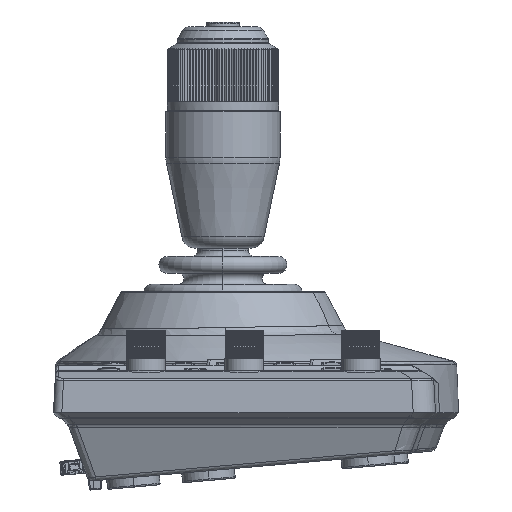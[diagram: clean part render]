
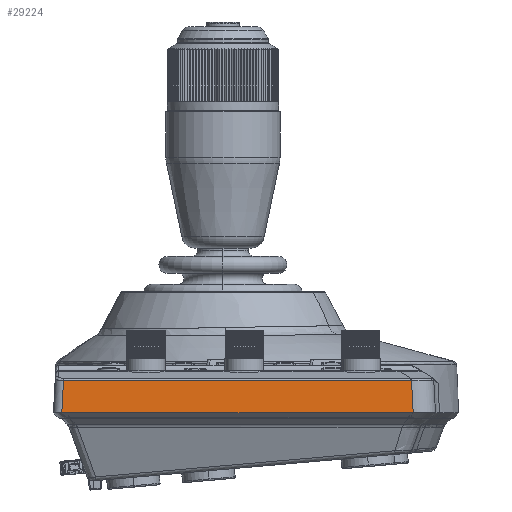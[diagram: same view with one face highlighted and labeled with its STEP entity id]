
A CAD part, left-side view. The second image highlights one B-rep face of the part: STEP entity #29224.
In plain terms, the highlighted planar face has unit normal (-0.999, 0, 0.052).
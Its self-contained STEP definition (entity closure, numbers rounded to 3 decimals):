
#493=PLANE('',#176673);
#29224=ADVANCED_FACE('',(#33740),#493,.F.);
#33740=FACE_OUTER_BOUND('',#37301,.T.);
#37301=EDGE_LOOP('',(#42565,#42566,#42567,#42568,#42569));
#42565=ORIENTED_EDGE('',*,*,#86745,.T.);
#42566=ORIENTED_EDGE('',*,*,#86746,.T.);
#42567=ORIENTED_EDGE('',*,*,#86747,.T.);
#42568=ORIENTED_EDGE('',*,*,#86748,.T.);
#42569=ORIENTED_EDGE('',*,*,#86749,.T.);
#64655=VERTEX_POINT('',#235093);
#64656=VERTEX_POINT('',#235094);
#64657=VERTEX_POINT('',#235099);
#64658=VERTEX_POINT('',#235101);
#64659=VERTEX_POINT('',#235106);
#86745=EDGE_CURVE('',#64655,#64656,#108885,.T.);
#86746=EDGE_CURVE('',#64656,#64657,#108886,.T.);
#86747=EDGE_CURVE('',#64657,#64658,#134244,.T.);
#86748=EDGE_CURVE('',#64658,#64659,#108887,.T.);
#86749=EDGE_CURVE('',#64659,#64655,#134245,.T.);
#108885=B_SPLINE_CURVE_WITH_KNOTS('',3,(#235089,#235090,#235091,#235092),
 .UNSPECIFIED.,.F.,.F.,(4,4),(0.,1.),.UNSPECIFIED.);
#108886=B_SPLINE_CURVE_WITH_KNOTS('',3,(#235095,#235096,#235097,#235098),
 .UNSPECIFIED.,.F.,.F.,(4,4),(0.,1.),.UNSPECIFIED.);
#108887=B_SPLINE_CURVE_WITH_KNOTS('',3,(#235102,#235103,#235104,#235105),
 .UNSPECIFIED.,.F.,.F.,(4,4),(0.,1.),.UNSPECIFIED.);
#134244=LINE('',#235100,#148487);
#134245=LINE('',#235107,#148488);
#148487=VECTOR('',#188026,1.);
#148488=VECTOR('',#188027,1.);
#176673=AXIS2_PLACEMENT_3D('',#235108,#188028,#188029);
#188026=DIRECTION('',(0.,1.,0.));
#188027=DIRECTION('',(0.,-1.,0.));
#188028=DIRECTION('',(0.999,0.,-0.052));
#188029=DIRECTION('',(0.052,0.,0.999));
#235089=CARTESIAN_POINT('',(-103.883,-29.352,-17.074));
#235090=CARTESIAN_POINT('',(-103.681,-29.15,-13.215));
#235091=CARTESIAN_POINT('',(-103.479,-28.947,-9.356));
#235092=CARTESIAN_POINT('',(-103.277,-28.745,-5.497));
#235093=CARTESIAN_POINT('',(-103.883,-29.352,-17.074));
#235094=CARTESIAN_POINT('',(-103.277,-28.745,-5.497));
#235095=CARTESIAN_POINT('',(-103.277,-28.745,-5.497));
#235096=CARTESIAN_POINT('',(-103.277,-28.635,-5.496));
#235097=CARTESIAN_POINT('',(-103.277,-28.527,-5.495));
#235098=CARTESIAN_POINT('',(-103.277,-28.419,-5.495));
#235099=CARTESIAN_POINT('',(-103.277,-28.419,-5.495));
#235100=CARTESIAN_POINT('',(-103.277,96.308,-5.495));
#235101=CARTESIAN_POINT('',(-103.277,96.308,-5.495));
#235102=CARTESIAN_POINT('',(-103.277,96.308,-5.495));
#235103=CARTESIAN_POINT('',(-103.479,96.51,-9.355));
#235104=CARTESIAN_POINT('',(-103.681,96.713,-13.215));
#235105=CARTESIAN_POINT('',(-103.883,96.915,-17.074));
#235106=CARTESIAN_POINT('',(-103.883,96.915,-17.074));
#235107=CARTESIAN_POINT('',(-103.883,33.781,-17.074));
#235108=CARTESIAN_POINT('',(-103.58,33.781,-11.285));
